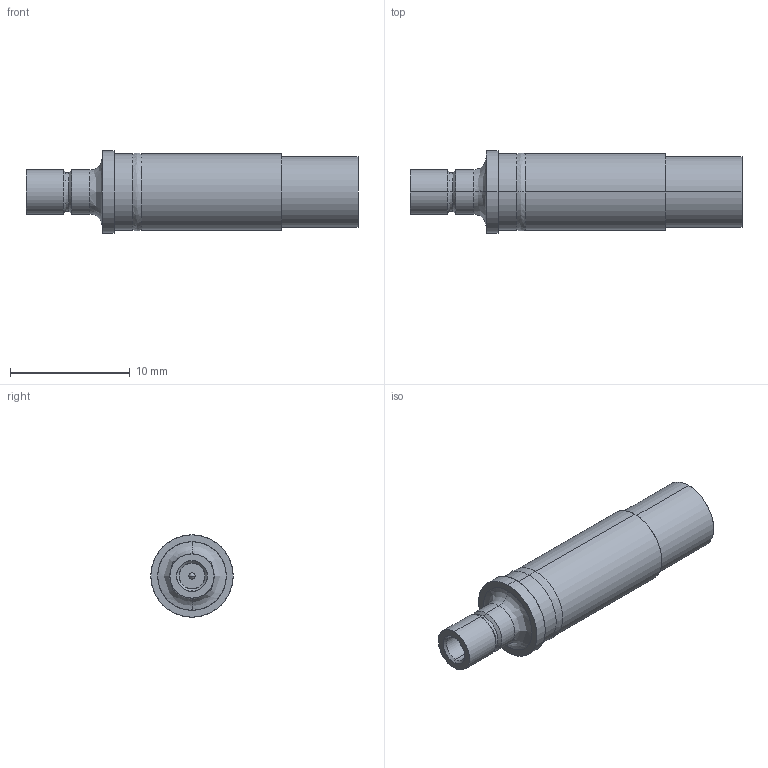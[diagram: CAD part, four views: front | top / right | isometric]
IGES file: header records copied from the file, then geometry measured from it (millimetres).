
Start section: SolidWorks IGES file using analytic representation for surfaces
Global section: file name: Z:\probe solid model mockups\Solidworks models\IGES Files\CSP-03G-003-SPL-03B-121 IGES files\CSP-03G-003-SPL-03B-121 RECD.IGS; native system: SolidWorks 2006 by SolidWorks Corporation; preprocessor: SolidWorks 2006 by SolidWorks Corporation; author: tsakatani; date: 080108.102157; units: inch
Bounding box: 27.69 x 6.86 x 6.86 mm (x, y, z)
Surface area: 855 mm2 (no closed solid volume)
Topology: 0 solids, 0 shells, 49 faces, 644 edges, 640 vertices
Faces by surface type: revolution 36, bspline 13
